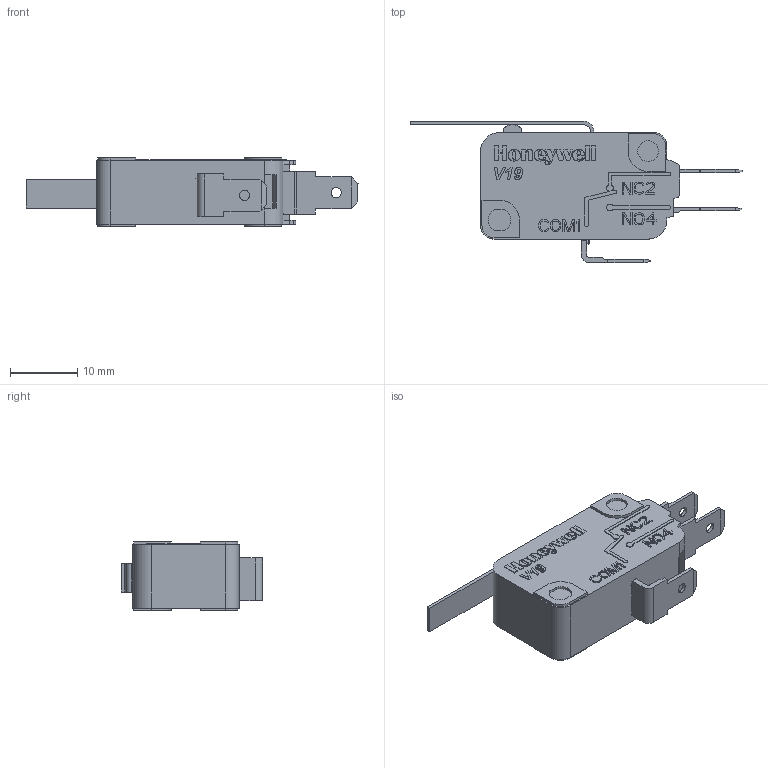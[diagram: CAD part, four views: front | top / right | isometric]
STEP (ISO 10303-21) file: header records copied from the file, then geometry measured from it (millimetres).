
FILE_DESCRIPTION((''),'2;1');
FILE_NAME('V19T16-EZ100A02','2020-06-15T16:51:05',('H252115'),(''),'CREO PARAMETRIC BY PTC INC, 2017380','CREO PARAMETRIC BY PTC INC, 2017380','');
FILE_SCHEMA(('CONFIG_CONTROL_DESIGN'));
Length unit declared in the file: millimetre
Products named in the file (1): V19T16-EZ100A02
Bounding box: 49.54 x 21.05 x 10.2 mm (x, y, z)
Volume: 4355.8 mm3; surface area: 2536.9 mm2
Topology: 1 solids, 1 shells, 718 faces, 2029 edges, 1354 vertices
Faces by surface type: plane 537, extrusion 101, cylinder 74, torus 4, bspline 2
Entity records: 25546 total; most frequent: CARTESIAN_POINT 7108, ORIENTED_EDGE 4058, DIRECTION 3316, EDGE_CURVE 2029, VECTOR 1742, LINE 1641, VERTEX_POINT 1354, AXIS2_PLACEMENT_3D 787
